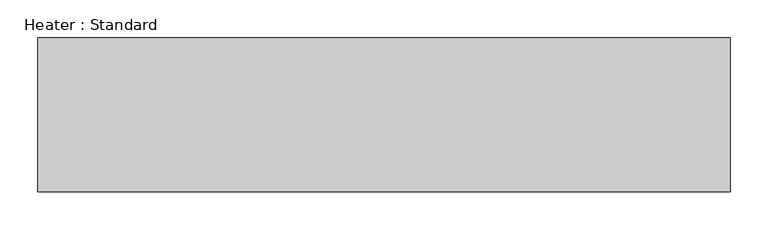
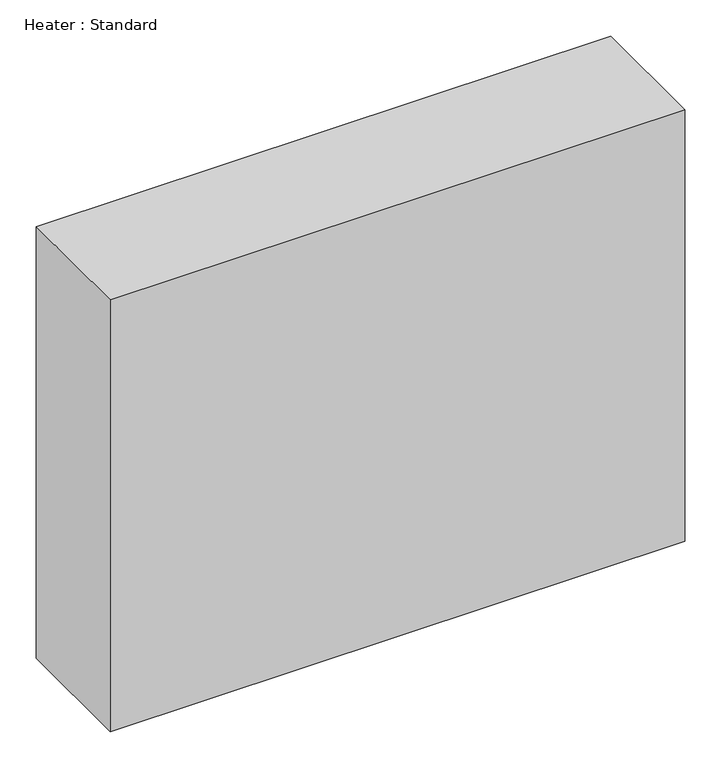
"""IFC4 building model written with IfcOpenShell, lengths in millimetres: proxy geometry, Heater : Standard."""

from ifc_helpers import new_model, si_unit, origin, origin_with_axes, place, context, project, spatial, polyline, outline, extrude, source, transform, mapped, element, save


def heater_standard_f97a0de0(model_context):
    return source(origin(), model_context, "Body", "SweptSolid", [
        extrude(outline(polyline([(457.2, 0.0), (457.2, -203.2), (-457.2, -203.2), (-457.2, 0.0), (457.2, 0.0)])), origin_with_axes(), (0.0, 0.0, 1.0), 726.4796875),
    ])


if __name__ == "__main__":
    model = new_model("IFC4")
    model_context = context("Model", 3, world=origin())
    ifc_project = project(units=[si_unit("LENGTHUNIT", "METRE", prefix="MILLI")], contexts=[model_context])
    site = spatial("IfcSite", under=ifc_project)
    building = spatial("IfcBuilding", under=site)
    placement = place(None, origin())
    heater_standard_shape = heater_standard_f97a0de0(model_context)
    element("IfcBuildingElementProxy", 1, Name="Heater : Standard", ObjectType="Heater : Standard", at=placement, inside=building, context=model_context, shape_type="MappedRepresentation", body=[
        mapped(heater_standard_shape, transform((0.0, 0.0, 0.0), x_axis=(1.0, 0.0, 0.0), y_axis=(0.0, 1.0, 0.0), z_axis=(0.0, 0.0, 1.0))),
    ])
    save(model, "model.ifc")
